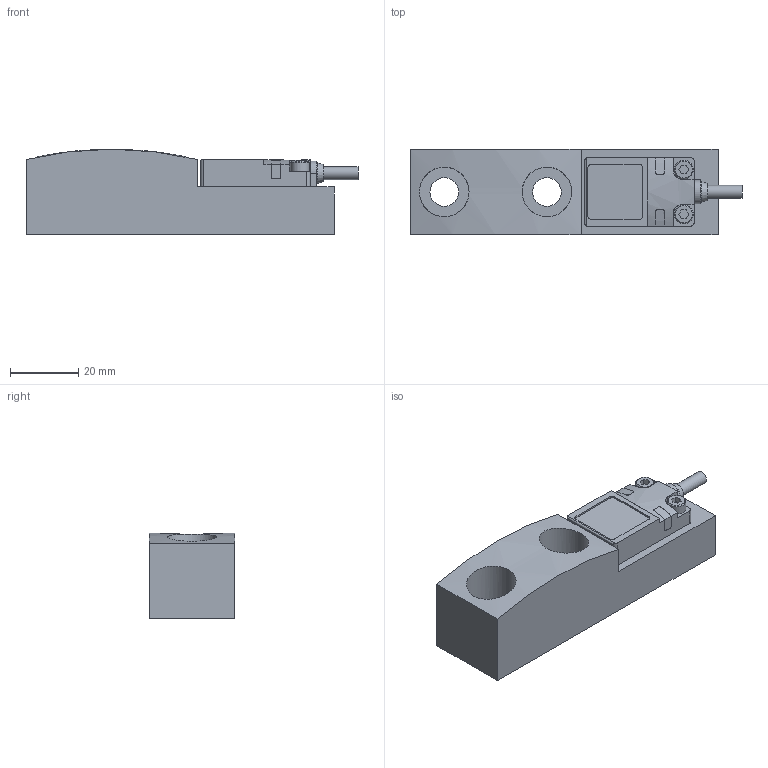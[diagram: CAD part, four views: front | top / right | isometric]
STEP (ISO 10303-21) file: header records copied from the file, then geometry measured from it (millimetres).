
FILE_DESCRIPTION(/* description */ ('PANCAKE STOP ASSEMBLY'),/* implementation_level */ '2;1');
FILE_NAME(/* name */ 'C:\Users\rcarver\Desktop\PANCAKE STOPS\WPS-05-XX.stp',/* time_stamp */ '2016-12-20T14:50:17-05:00',/* author */ ('rcarver'),/* organization */ (''),/* preprocessor_version */ 'ST-DEVELOPER v16.5',/* originating_system */ 'Autodesk Inventor 2017',/* authorisation */ '');
FILE_SCHEMA (('AUTOMOTIVE_DESIGN { 1 0 10303 214 3 1 1 }'));
Length unit declared in the file: millimetre
Products named in the file (4): WPSL01; WPSE05; NBB5-F104M-E2-C-200MM-V1; M3X0.5-8 SHCS
Assembly tree (4 placements, depth 2):
  WPSL01
    WPSE05
    NBB5-F104M-E2-C-200MM-V1
    M3X0.5-8 SHCS  x2
Bounding box: 97 x 25 x 25 mm (x, y, z)
Volume: 43737.6 mm3; surface area: 13715.3 mm2
Topology: 4 solids, 4 shells, 132 faces, 329 edges, 215 vertices
Faces by surface type: plane 76, cylinder 47, cone 7, torus 2
Full cylindrical faces by diameter (mm): 2.459 x2, 3 x2, 3.3 x2, 3.8 x1, 5.5 x2, 8.376 x2, 14.5 x2
Entity records: 3836 total; most frequent: CARTESIAN_POINT 800, DIRECTION 604, ORIENTED_EDGE 562, EDGE_CURVE 281, AXIS2_PLACEMENT_3D 215, VERTEX_POINT 194, LINE 174, VECTOR 174
